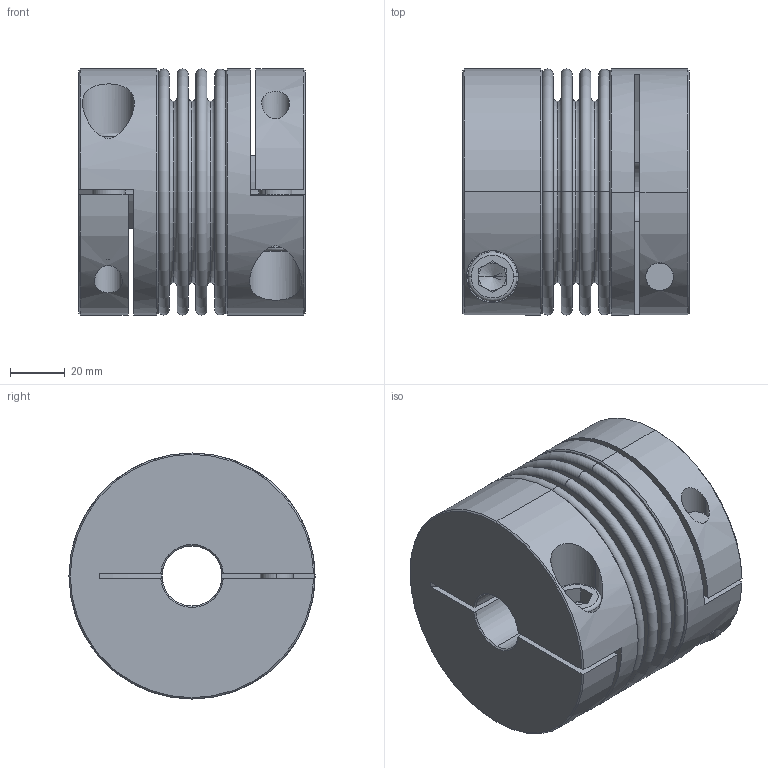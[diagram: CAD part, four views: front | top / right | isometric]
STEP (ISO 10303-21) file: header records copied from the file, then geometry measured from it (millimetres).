
FILE_DESCRIPTION (( 'STEP AP214' ), '1' );
FILE_NAME ('KB4C-200-83.STEP', '2011-01-19T17:50:05', ( '' ), ( 'KAPCAD' ), 'SwSTEP 2.0', 'SolidWorks 2002296', '' );
FILE_SCHEMA (( 'AUTOMOTIVE_DESIGN' ));
Length unit declared in the file: millimetre
Products named in the file (4): KB4C-200-83; BK200_Standard; Socket Head Cap Screw_DIN_DIN 912 M12 x 35 --- 35N; KN200C_Standard
Assembly tree (5 placements, depth 2):
  KB4C-200-83
    Socket Head Cap Screw_DIN_DIN 912 M12 x 35 --- 35N  x2
    KN200C_Standard  x2
    BK200_Standard
Bounding box: 82.75 x 90 x 90 mm (x, y, z)
Volume: 341412.8 mm3; surface area: 122089 mm2
Topology: 5 solids, 5 shells, 190 faces, 428 edges, 264 vertices
Faces by surface type: plane 66, torus 56, cylinder 44, cone 24
Entity records: 3998 total; most frequent: CARTESIAN_POINT 802, DIRECTION 758, ORIENTED_EDGE 572, AXIS2_PLACEMENT_3D 343, EDGE_CURVE 286, CIRCLE 203, VERTEX_POINT 178, EDGE_LOOP 158
